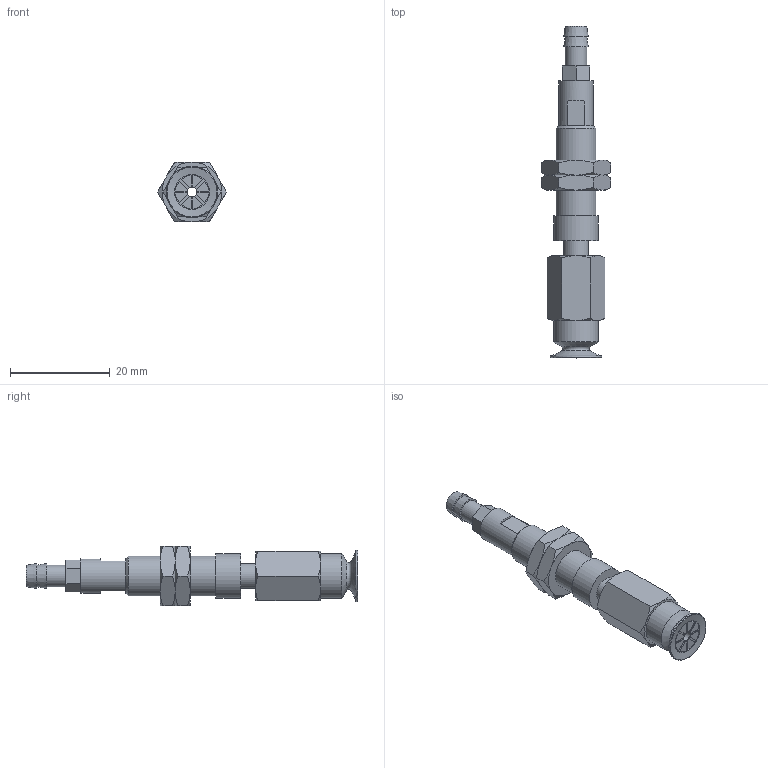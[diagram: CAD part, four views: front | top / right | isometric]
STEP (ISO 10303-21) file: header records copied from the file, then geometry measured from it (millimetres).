
FILE_DESCRIPTION(('STEP AP203'),'1');
FILE_NAME('-T.stp','2025-08-26T08:41:32',(' '),(' '),'Spatial InterOp 3D',' ',' ');
FILE_SCHEMA(('CONFIG_CONTROL_DESIGN'));
Length unit declared in the file: millimetre
Products named in the file (7): BNABPATS-10B-3-※-T; ADAPTER; NAPATS-10A-3--M; NAPATS-10A-3--F; Nut-10A-S; T; BPAG-10B-※_3D
Assembly tree (7 placements, depth 2):
  BNABPATS-10B-3-※-T
    ADAPTER
    NAPATS-10A-3--M
    NAPATS-10A-3--F
    Nut-10A-S  x2
    T
    BPAG-10B-※_3D
Bounding box: 13.86 x 66.5 x 12 mm (x, y, z)
Volume: 3581.8 mm3; surface area: 4369.3 mm2
Topology: 7 solids, 7 shells, 165 faces, 369 edges, 229 vertices
Faces by surface type: plane 77, cone 49, cylinder 28, torus 11
Full cylindrical faces by diameter (mm): 2 x3, 3 x1, 4 x2, 4.134 x1, 4.3 x1, 5 x3, 6 x2, 7 x2, 7.188 x2, 8 x1, 9 x2
Entity records: 4244 total; most frequent: CARTESIAN_POINT 902, DIRECTION 642, ORIENTED_EDGE 542, EDGE_CURVE 271, AXIS2_PLACEMENT_3D 269, EDGE_LOOP 206, VERTEX_POINT 193, FACE_OUTER_BOUND 172
